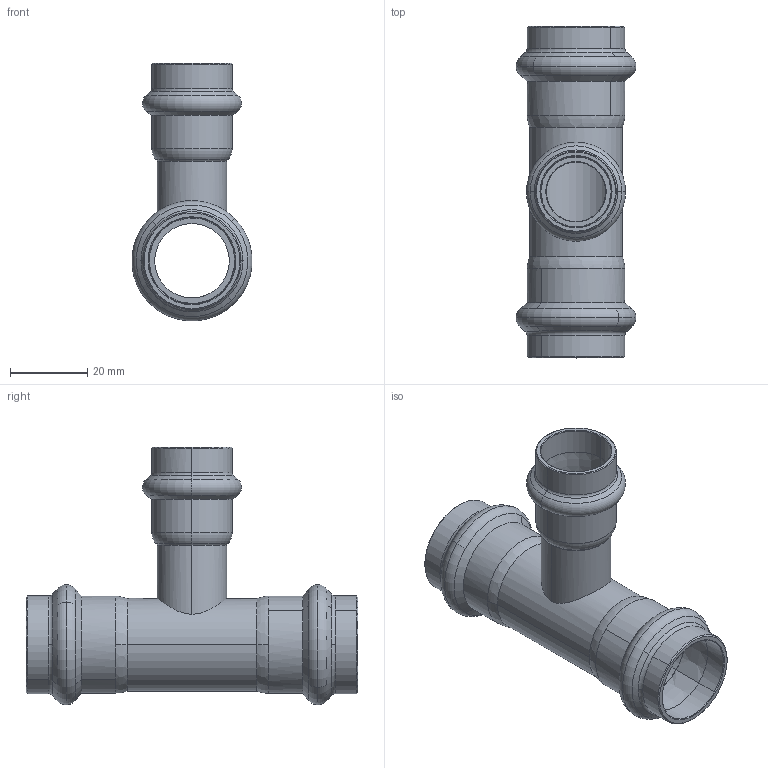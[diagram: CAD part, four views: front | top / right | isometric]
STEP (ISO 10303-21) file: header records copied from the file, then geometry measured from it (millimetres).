
FILE_DESCRIPTION(('CoCreate Modeling STEP Export'),'2;1');
FILE_NAME('8130RVW221822.stp','2013-01-31T14:37:09',(''),(''),'CoCreate Modeling STEP processor for AP214 (Solid Model)','CoCreate Modeling 17.00A 17-Jun-2010 (C) Parametric Technology GmbH','');
FILE_SCHEMA(('AUTOMOTIVE_DESIGN { 1 0 10303 214 1 1 1 1 }'));
Length unit declared in the file: millimetre
Products named in the file (1): 8130RVW221822
Bounding box: 31.08 x 86.01 x 66.73 mm (x, y, z)
Volume: 15775.9 mm3; surface area: 18522.4 mm2
Topology: 1 solids, 1 shells, 128 faces, 321 edges, 203 vertices
Faces by surface type: cylinder 40, torus 40, cone 36, plane 10, bspline 2
Entity records: 5550 total; most frequent: CARTESIAN_POINT 3017, ORIENTED_EDGE 642, DIRECTION 426, EDGE_CURVE 321, VERTEX_POINT 203, AXIS2_PLACEMENT_3D 175, EDGE_LOOP 140, FACE_OUTER_BOUND 128
